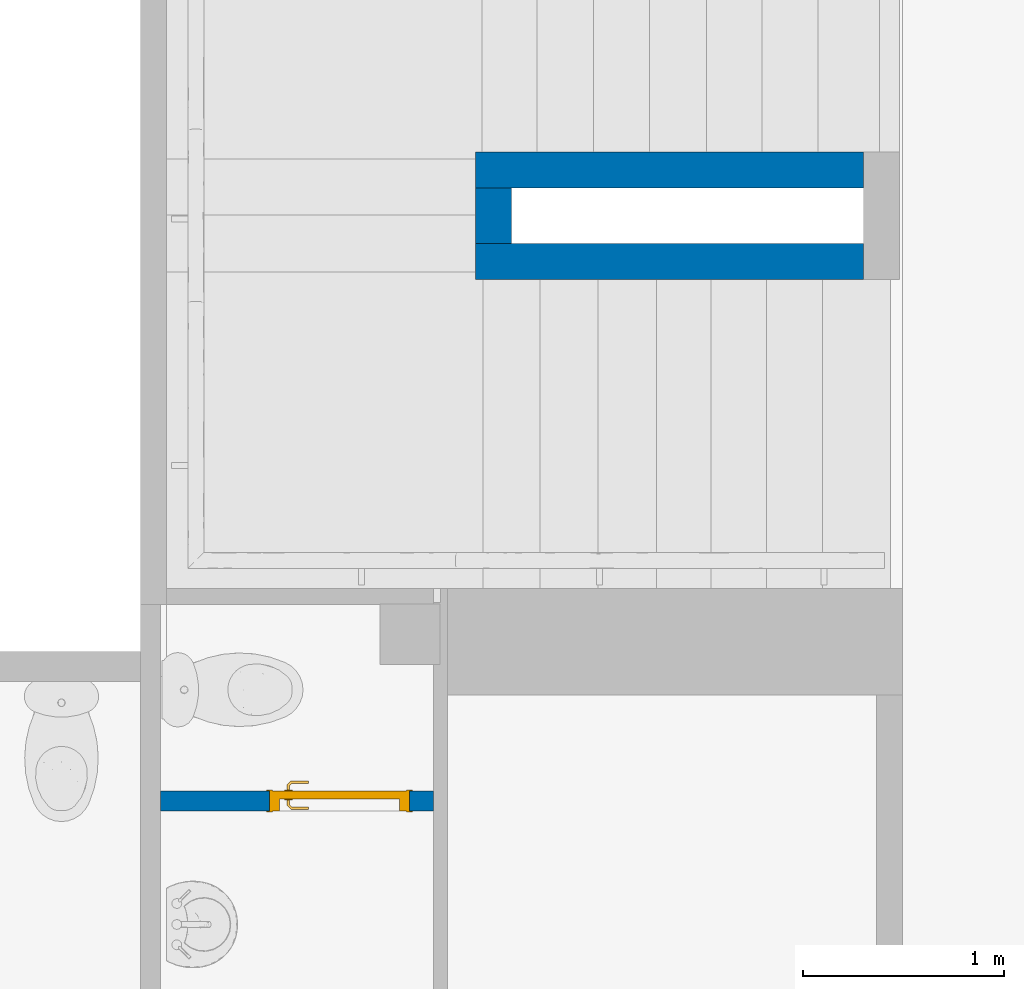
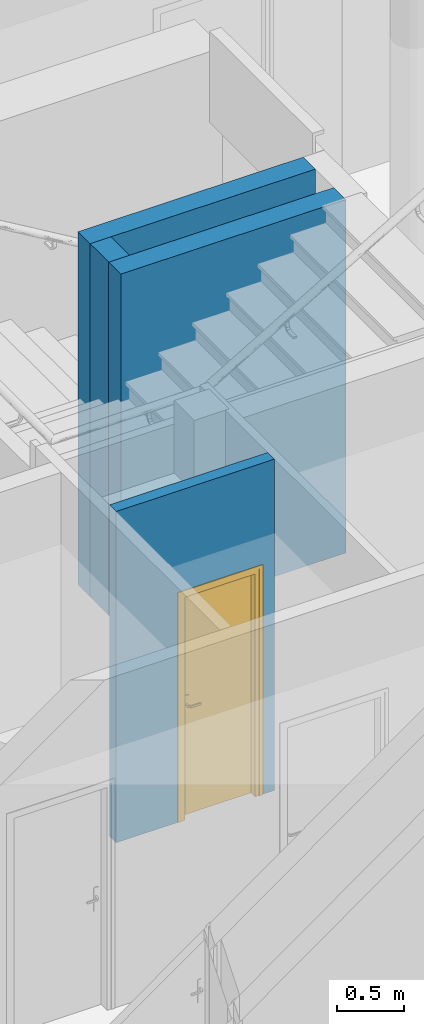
# One storey, part 48 of 97: 4 walls, 1 door, 1 opening.
"""IFC4 building model written with IfcOpenShell, lengths in metres."""

from ifc_helpers import new_model, entity, si_unit, converted_unit, derived_unit, direction, frame, origin, place, context, subcontext, project, spatial, indexed_curve, outline, extrude, polygons, source, transform, mapped, material, material_list, layer, layer_set, constituent, constituent_set, type_object, type_shapes, element, fill, save


model = new_model("IFC4")

# Units and contexts
model_context = context("Model", 3, precision=1e-05, world=origin(), true_north=direction((6.12303176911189e-17, 1.0)))
body_context = subcontext(model_context, "Body", "Model", "MODEL_VIEW")
ifc_project = project(units=[si_unit("LENGTHUNIT", "METRE"), si_unit("AREAUNIT", "SQUARE_METRE"), si_unit("VOLUMEUNIT", "CUBIC_METRE"), converted_unit("PLANEANGLEUNIT", "DEGREE", entity("IfcRatioMeasure", 0.0174532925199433), si_unit("PLANEANGLEUNIT", "RADIAN"), dimensions=[0, 0, 0, 0, 0, 0, 0]), si_unit("MASSUNIT", "GRAM", prefix="KILO"), derived_unit("MASSDENSITYUNIT", [(si_unit("MASSUNIT", "GRAM", prefix="KILO"), 1), (si_unit("LENGTHUNIT", "METRE"), -3)]), derived_unit("MOMENTOFINERTIAUNIT", [(si_unit("LENGTHUNIT", "METRE"), 4)]), si_unit("TIMEUNIT", "SECOND"), si_unit("FREQUENCYUNIT", "HERTZ"), si_unit("THERMODYNAMICTEMPERATUREUNIT", "DEGREE_CELSIUS"), derived_unit("THERMALTRANSMITTANCEUNIT", [(si_unit("MASSUNIT", "GRAM", prefix="KILO"), 1), (si_unit("THERMODYNAMICTEMPERATUREUNIT", "KELVIN"), -1), (si_unit("TIMEUNIT", "SECOND"), -3)]), derived_unit("VOLUMETRICFLOWRATEUNIT", [(si_unit("LENGTHUNIT", "METRE"), 3), (si_unit("TIMEUNIT", "SECOND"), -1)]), si_unit("ELECTRICCURRENTUNIT", "AMPERE"), si_unit("ELECTRICVOLTAGEUNIT", "VOLT"), si_unit("POWERUNIT", "WATT"), si_unit("FORCEUNIT", "NEWTON", prefix="KILO"), si_unit("ILLUMINANCEUNIT", "LUX"), si_unit("LUMINOUSFLUXUNIT", "LUMEN"), si_unit("LUMINOUSINTENSITYUNIT", "CANDELA"), derived_unit("USERDEFINED", [(si_unit("MASSUNIT", "GRAM", prefix="KILO"), -1), (si_unit("LENGTHUNIT", "METRE"), -2), (si_unit("TIMEUNIT", "SECOND"), 3), (si_unit("LUMINOUSFLUXUNIT", "LUMEN"), 1)]), derived_unit("LINEARVELOCITYUNIT", [(si_unit("LENGTHUNIT", "METRE"), 1), (si_unit("TIMEUNIT", "SECOND"), -1)]), si_unit("PRESSUREUNIT", "PASCAL"), derived_unit("USERDEFINED", [(si_unit("LENGTHUNIT", "METRE"), -2), (si_unit("MASSUNIT", "GRAM", prefix="KILO"), 1), (si_unit("TIMEUNIT", "SECOND"), -2)]), derived_unit("LINEARFORCEUNIT", [(si_unit("MASSUNIT", "GRAM", prefix="KILO"), 1), (si_unit("LENGTHUNIT", "METRE"), 1), (si_unit("TIMEUNIT", "SECOND"), -2), (si_unit("LENGTHUNIT", "METRE"), -1)]), derived_unit("PLANARFORCEUNIT", [(si_unit("MASSUNIT", "GRAM", prefix="KILO"), 1), (si_unit("LENGTHUNIT", "METRE"), 1), (si_unit("TIMEUNIT", "SECOND"), -2), (si_unit("LENGTHUNIT", "METRE"), -2)])], contexts=[model_context])

# Site, building, storey
site_placement = place(None, origin())
site = spatial("IfcSite", under=ifc_project, at=site_placement, Name="Default", CompositionType="ELEMENT")
building_placement = place(site_placement, origin())
building = spatial("IfcBuilding", under=site, at=building_placement, Name="HOTEL CONSULAIRE BOULOGNE SUR MER", CompositionType="ELEMENT")
storey_placement = place(building_placement, frame((0.0, 0.0, 3.62152697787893)))
storey = spatial("IfcBuildingStorey", under=building, at=storey_placement, Name="Niveau 1", CompositionType="ELEMENT", Elevation=3.62152697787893)

# Walls
ifc_material_1 = material(Name="Mur par défaut", Category="Divers")
ifc_layer_1 = layer(ifc_material_1, 0.18, Name="Mur par défaut", Category="Divers")
ifc_layer_set_1 = layer_set([ifc_layer_1], Name="Mur de base:Générique - Int.180")
wall_type_1 = type_object("IfcWallType", Name="Mur de base:Générique - Int.180", PredefinedType="NOTDEFINED", material=ifc_layer_set_1)
wall_1_placement = place(storey_placement, frame((3.2974549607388, -17.4788875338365, -0.200000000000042)))
element("IfcWall", 1, at=wall_1_placement, inside=storey, type_object=wall_type_1, material=ifc_layer_set_1, Name="Mur de base:Générique - Int.180", ObjectType="Mur de base:Générique - Int.180", PredefinedType="NOTDEFINED", context=body_context, shape_type="SweptSolid", body=[
    extrude(outline(indexed_curve([(1.93452533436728, 0.0899999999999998), (2.03362004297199e-16, 0.089999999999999), (-2.03362004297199e-16, -0.089999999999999), (1.93452533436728, -0.0899999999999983), (1.93452533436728, 0.0899999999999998)], self_intersect=False)), origin(), (0.0, 0.0, 1.0), 3.21021454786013),
])
wall_2_placement = place(storey_placement, frame((3.2974549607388, -17.9348875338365, -0.200000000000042)))
element("IfcWall", 2, at=wall_2_placement, inside=storey, type_object=wall_type_1, material=ifc_layer_set_1, Name="Mur de base:Générique - Int.180", ObjectType="Mur de base:Générique - Int.180", PredefinedType="NOTDEFINED", context=body_context, shape_type="SweptSolid", body=[
    extrude(outline(indexed_curve([(1.93452533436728, 0.0899999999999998), (2.02950784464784e-16, 0.089999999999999), (-2.02950784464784e-16, -0.089999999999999), (1.93452533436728, -0.0899999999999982), (1.93452533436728, 0.0899999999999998)], self_intersect=False)), origin(), (0.0, 0.0, 1.0), 3.21021454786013),
])
wall_3_placement = place(storey_placement, frame((3.3874549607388, -17.5688875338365, -0.200000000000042), z_axis=(0.0, 0.0, 1.0), x_axis=(0.0, -1.0, 0.0)))
element("IfcWall", 3, at=wall_3_placement, inside=storey, type_object=wall_type_1, material=ifc_layer_set_1, Name="Mur de base:Générique - Int.180", ObjectType="Mur de base:Générique - Int.180", PredefinedType="NOTDEFINED", context=body_context, shape_type="SweptSolid", body=[
    extrude(outline(indexed_curve([(0.276, 0.0900000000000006), (-1.49754604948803e-16, 0.0900000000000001), (1.49754604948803e-16, -0.0900000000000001), (0.276, -0.0899999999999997), (0.276, 0.0900000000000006)], self_intersect=False)), origin(), (0.0, 0.0, 1.0), 3.21021454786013),
])

# Wall, opening, door
ifc_layer_2 = layer(ifc_material_1, 0.1, Name="Mur par défaut", Category="Divers")
ifc_layer_set_2 = layer_set([ifc_layer_2], Name="Mur de base:Générique - Int. 100 mm")
wall_type_2 = type_object("IfcWallType", Name="Mur de base:Générique - Int. 100 mm", PredefinedType="NOTDEFINED", material=ifc_layer_set_2)
wall_4_placement = place(storey_placement, frame((3.08781360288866, -20.6255920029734, 0.0), z_axis=(0.0, 0.0, 1.0), x_axis=(-1.0, 0.0, 0.0)))
wall_4 = element("IfcWall", 4, at=wall_4_placement, inside=storey, type_object=wall_type_2, material=ifc_layer_set_2, Name="Mur de base:Générique - Int. 100 mm", ObjectType="Mur de base:Générique - Int. 100 mm", PredefinedType="NOTDEFINED", context=body_context, shape_type="Tessellation", body=[
    polygons([(1.36034228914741, -0.0499999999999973, 0.0), (0.817999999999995, -0.0500000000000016, 0.0), (0.817999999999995, 0.0500000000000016, 0.0), (1.36034228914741, 0.0500000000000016, 0.0), (1.36034228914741, -0.0499999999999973, 3.01021454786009), (3.54735710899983e-16, -0.0499999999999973, 3.01021454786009), (3.54735710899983e-16, -0.0499999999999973, 0.0), (0.118, -0.0499999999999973, 0.0), (0.118, -0.0499999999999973, 2.07500000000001), (0.817999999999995, -0.0500000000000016, 2.07500000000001), (5.87383871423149e-16, 0.0500000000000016, 3.01021454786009), (1.36034228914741, 0.0500000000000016, 3.01021454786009), (0.817999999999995, 0.0499999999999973, 2.07500000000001), (0.118, 0.0500000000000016, 2.07500000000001), (0.118, 0.0500000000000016, 0.0), (5.87383871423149e-16, 0.0500000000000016, 0.0)], [[[2, 3, 4, 1]], [[10, 9, 14, 13]], [[8, 7, 16, 15]], [[7, 8, 9, 10, 2, 1, 5, 6]], [[4, 3, 13, 14, 15, 16, 11, 12]], [[6, 5, 12, 11]], [[1, 4, 12, 5]], [[9, 8, 15, 14]], [[16, 7, 6, 11]], [[2, 10, 13, 3]]], closed=True),
])
opening_placement = place(wall_4_placement, frame((0.817999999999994, 0.0499999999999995, 0.0)))
opening = element("IfcOpeningElement", 5, at=opening_placement, cuts=wall_4, Name="Int. Simple:PP (0.63m x 2.04m):1", ObjectType="Opening", PredefinedType="OPENING", context=body_context, shape_type="SweptSolid", body=[
    extrude(outline(indexed_curve([(0.0, 0.699999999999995), (0.0, 0.0), (2.07500000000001, 0.0), (2.07500000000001, 0.699999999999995), (0.0, 0.699999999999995)], self_intersect=False)), frame((0.0, 0.0, 0.0), z_axis=(0.0, -1.0, 0.0), x_axis=(0.0, 0.0, 1.0)), (0.0, 0.0, 1.0), 0.1),
])
ifc_material_2 = material(Name="Finition Peinture - Blanc satiné", Category="Peinture")
ifc_constituent_1 = constituent(ifc_material_2, Name="Finition Peinture - Blanc satiné", Category="Matériaux")
ifc_material_3 = material(Name="Bois - Panneau de porte", Category="Bois")
ifc_constituent_2 = constituent(ifc_material_3, Name="Bois - Panneau de porte", Category="Matériaux")
ifc_material_4 = material(Name="Bois - Cadre de porte", Category="Bois")
ifc_constituent_3 = constituent(ifc_material_4, Name="Bois - Cadre de porte", Category="Matériaux")
ifc_constituent_set = constituent_set(constituents=[ifc_constituent_1, ifc_constituent_2, ifc_constituent_3], Name="MaterialConstituentSet")
ifc_material_list = material_list([ifc_material_4, ifc_material_4, ifc_material_2, ifc_material_3])
door_type = type_object("IfcDoorType", Name="Int. Simple:PP (0.63m x 2.04m)", OperationType="NOTDEFINED", PredefinedType="DOOR", material=ifc_material_list)
shared_shape = source(origin(), body_context, "Body", "Tessellation", [
    polygons([(0.695000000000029, -0.00500000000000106, 0.870000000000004), (0.695000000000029, -0.00500000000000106, 1.08), (0.68535276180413, -0.00500000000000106, 1.08399601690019), (0.675000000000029, -0.00500000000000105, 1.08535898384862), (0.664647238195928, -0.00500000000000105, 1.08399601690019), (0.65500000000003, -0.00500000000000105, 1.08), (0.655000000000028, -0.00500000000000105, 0.870000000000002), (0.664647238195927, -0.00500000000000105, 0.866003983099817), (0.675000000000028, -0.00500000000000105, 0.86464101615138), (0.685352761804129, -0.00500000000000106, 0.866003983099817), (0.695000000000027, -1.06594733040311e-15, 0.870000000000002), (0.685352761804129, -1.06594733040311e-15, 0.866003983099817), (0.675000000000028, -1.05748743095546e-15, 0.86464101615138), (0.664647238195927, -1.05748743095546e-15, 0.866003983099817), (0.655000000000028, -1.04902753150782e-15, 0.870000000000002), (0.655000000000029, -1.04902753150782e-15, 1.08), (0.664647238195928, -1.05748743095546e-15, 1.08399601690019), (0.675000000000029, -1.05748743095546e-15, 1.08535898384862), (0.68535276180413, -1.06594733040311e-15, 1.08399601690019), (0.695000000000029, -1.06594733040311e-15, 1.08)], [[[1, 2, 3, 4, 5, 6, 7, 8, 9, 10]], [[20, 11, 12, 13, 14, 15, 16, 17, 18, 19]], [[10, 12, 11, 1]], [[9, 13, 12, 10]], [[8, 14, 13, 9]], [[8, 7, 15, 14]], [[15, 7, 6, 16]], [[5, 17, 16, 6]], [[4, 18, 17, 5]], [[3, 19, 18, 4]], [[3, 2, 20, 19]], [[11, 20, 2, 1]]], closed=True),
    polygons([(0.65500000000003, 0.0399999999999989, 1.08), (0.655000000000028, 0.0399999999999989, 0.870000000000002), (0.664647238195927, 0.0399999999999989, 0.866003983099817), (0.675000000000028, 0.0399999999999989, 0.86464101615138), (0.685352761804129, 0.0399999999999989, 0.866003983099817), (0.695000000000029, 0.0399999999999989, 0.870000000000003), (0.695000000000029, 0.0399999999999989, 1.08), (0.68535276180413, 0.0399999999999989, 1.08399601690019), (0.675000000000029, 0.0399999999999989, 1.08535898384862), (0.664647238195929, 0.0399999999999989, 1.08399601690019), (0.65500000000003, 0.0449999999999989, 1.08), (0.664647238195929, 0.0449999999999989, 1.08399601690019), (0.675000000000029, 0.0449999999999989, 1.08535898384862), (0.68535276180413, 0.0449999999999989, 1.08399601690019), (0.695000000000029, 0.0449999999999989, 1.08), (0.695000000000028, 0.0449999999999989, 0.870000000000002), (0.685352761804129, 0.0449999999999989, 0.866003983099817), (0.675000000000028, 0.0449999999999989, 0.86464101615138), (0.664647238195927, 0.0449999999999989, 0.866003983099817), (0.655000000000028, 0.0449999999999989, 0.870000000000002)], [[[6, 7, 8, 9, 10, 1, 2, 3, 4, 5]], [[13, 14, 15, 16, 17, 18, 19, 20, 11, 12]], [[10, 12, 11, 1]], [[9, 13, 12, 10]], [[8, 14, 13, 9]], [[8, 7, 15, 14]], [[16, 15, 7, 6]], [[5, 17, 16, 6]], [[4, 18, 17, 5]], [[3, 19, 18, 4]], [[3, 2, 20, 19]], [[20, 2, 1, 11]]], closed=True),
    polygons([(0.681000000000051, -0.00500000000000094, 1.00699999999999), (0.68100000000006, -0.00500000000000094, 0.992999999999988), (0.677025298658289, -0.00500000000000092, 0.99221955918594), (0.67297470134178, -0.0050000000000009, 0.992219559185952), (0.669000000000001, -0.00500000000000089, 0.993000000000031), (0.669000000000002, -0.00500000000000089, 1.007), (0.672974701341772, -0.0050000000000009, 1.00778044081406), (0.677025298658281, -0.00500000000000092, 1.00778044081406), (0.669000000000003, -0.0276803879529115, 1.007), (0.672974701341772, -0.0293267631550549, 1.00778044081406), (0.677025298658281, -0.0310045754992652, 1.00778044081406), (0.681000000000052, -0.0326509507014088, 1.007), (0.669000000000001, -0.0276803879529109, 0.993000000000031), (0.68100000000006, -0.0326509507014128, 0.992999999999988), (0.677025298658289, -0.0310045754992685, 0.99221955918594), (0.67297470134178, -0.0293267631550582, 0.992219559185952), (0.657652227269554, -0.0390281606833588, 1.007), (0.659298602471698, -0.0430028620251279, 1.00778044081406), (0.660976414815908, -0.0470534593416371, 1.00778044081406), (0.662622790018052, -0.051028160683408, 1.007), (0.657652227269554, -0.0390281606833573, 0.993000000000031), (0.662622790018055, -0.0510281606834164, 0.992999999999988), (0.660976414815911, -0.0470534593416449, 0.99221955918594), (0.659298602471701, -0.0430028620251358, 0.992219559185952), (0.574981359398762, -0.0510281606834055, 1.007), (0.574981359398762, -0.0470534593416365, 1.00778044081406), (0.574981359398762, -0.0430028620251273, 1.00778044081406), (0.574981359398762, -0.0390281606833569, 1.00699999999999), (0.574981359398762, -0.0390281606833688, 0.993000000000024), (0.574981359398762, -0.0430028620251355, 0.992219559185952), (0.574981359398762, -0.0470534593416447, 0.99221955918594), (0.574981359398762, -0.0510281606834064, 0.992999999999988), (0.622692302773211, -0.051028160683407, 1.007), (0.617139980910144, -0.045028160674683, 1.0078786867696), (0.616316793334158, -0.039028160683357, 1.007), (0.622692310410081, -0.0510281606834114, 0.992999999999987), (0.617139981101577, -0.0450281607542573, 0.992121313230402), (0.61631679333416, -0.0390281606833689, 0.993000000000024)], [[[7, 8, 1, 2, 3, 4, 5, 6]], [[17, 21, 38, 29, 28, 35]], [[1, 8, 11, 12]], [[8, 7, 10, 18, 19, 11]], [[7, 6, 9, 10]], [[13, 9, 6, 5]], [[25, 26, 27, 28, 29, 30, 31, 32]], [[4, 16, 13, 5]], [[4, 3, 15, 23, 24, 16]], [[2, 14, 15, 3]], [[12, 14, 2, 1]], [[12, 11, 19, 20]], [[10, 9, 17, 18]], [[21, 17, 9, 13]], [[13, 16, 24, 21]], [[15, 14, 22, 23]], [[20, 22, 14, 12]], [[34, 26, 33]], [[33, 26, 25]], [[33, 20, 19]], [[18, 35, 34]], [[35, 18, 17]], [[28, 27, 35]], [[34, 27, 26]], [[34, 35, 27]], [[34, 33, 19]], [[18, 34, 19]], [[37, 30, 38]], [[31, 37, 36]], [[24, 38, 21]], [[30, 29, 38]], [[31, 36, 32]], [[36, 23, 22]], [[37, 23, 36]], [[37, 24, 23]], [[37, 38, 24]], [[30, 37, 31]], [[22, 20, 33, 25, 32, 36]]], closed=True),
    polygons([(0.66900000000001, 0.0449999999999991, 0.993000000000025), (0.672974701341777, 0.0449999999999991, 0.992219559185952), (0.677025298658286, 0.0449999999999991, 0.99221955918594), (0.681000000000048, 0.044999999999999, 0.992999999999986), (0.681000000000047, 0.044999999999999, 1.007), (0.677025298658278, 0.0449999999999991, 1.00778044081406), (0.672974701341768, 0.0449999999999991, 1.00778044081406), (0.668999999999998, 0.0449999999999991, 1.007), (0.668999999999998, 0.067485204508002, 1.007), (0.668999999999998, 0.0674852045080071, 0.993000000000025), (0.681000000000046, 0.0724557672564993, 1.007), (0.677025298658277, 0.070809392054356, 1.00778044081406), (0.672974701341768, 0.0691315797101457, 1.00778044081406), (0.681000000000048, 0.0724557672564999, 0.992999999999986), (0.672974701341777, 0.0691315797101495, 0.992219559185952), (0.677025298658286, 0.0708093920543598, 0.99221955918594), (0.65751471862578, 0.0789704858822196, 1.007), (0.657514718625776, 0.0789704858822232, 0.993000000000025), (0.662485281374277, 0.0909704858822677, 1.007), (0.660838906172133, 0.0869957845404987, 1.00778044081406), (0.659161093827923, 0.0829451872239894, 1.00778044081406), (0.662485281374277, 0.0909704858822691, 0.992999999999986), (0.659161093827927, 0.0829451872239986, 0.992219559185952), (0.660838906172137, 0.0869957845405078, 0.99221955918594), (0.574954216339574, 0.0789704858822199, 0.993000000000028), (0.574954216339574, 0.0789704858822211, 1.007), (0.574954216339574, 0.0829451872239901, 1.00778044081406), (0.574954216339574, 0.0869957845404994, 1.00778044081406), (0.574954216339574, 0.0909704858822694, 1.007), (0.574954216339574, 0.0909704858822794, 0.992999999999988), (0.574954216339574, 0.086995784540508, 0.99221955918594), (0.574954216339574, 0.0829451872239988, 0.992219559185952), (0.62255479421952, 0.0909704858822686, 1.007), (0.617057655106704, 0.0849704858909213, 1.0078786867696), (0.616234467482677, 0.0789704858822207, 1.007), (0.622554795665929, 0.0909704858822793, 0.992999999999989), (0.617057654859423, 0.0849704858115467, 0.992121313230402), (0.616234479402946, 0.0789704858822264, 0.993000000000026)], [[[2, 3, 4, 5, 6, 7, 8, 1]], [[18, 17, 35, 26, 25, 38]], [[9, 10, 1, 8]], [[27, 28, 29, 30, 31, 32, 25, 26]], [[7, 13, 9, 8]], [[7, 6, 12, 20, 21, 13]], [[5, 11, 12, 6]], [[11, 5, 4, 14]], [[4, 3, 16, 14]], [[3, 2, 15, 23, 24, 16]], [[2, 1, 10, 15]], [[17, 18, 10, 9]], [[9, 13, 21, 17]], [[11, 19, 20, 12]], [[22, 19, 11, 14]], [[14, 16, 24, 22]], [[15, 10, 18, 23]], [[34, 27, 35]], [[28, 34, 33]], [[21, 35, 17]], [[27, 26, 35]], [[28, 33, 29]], [[33, 20, 19]], [[34, 20, 33]], [[34, 21, 20]], [[34, 35, 21]], [[27, 34, 28]], [[19, 22, 36, 30, 29, 33]], [[37, 31, 36]], [[36, 31, 30]], [[36, 22, 24]], [[23, 38, 37]], [[38, 23, 18]], [[25, 32, 38]], [[37, 32, 31]], [[37, 38, 32]], [[37, 36, 24]], [[23, 37, 24]]], closed=True),
    polygons([(0.735000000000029, 0.04, 2.04), (0.735000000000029, 0.04, 0.0), (0.105000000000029, 0.04, 0.0), (0.105000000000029, 0.04, 2.04), (0.735000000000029, 3.38395977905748e-17, 2.04), (0.105000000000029, 3.38395977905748e-17, 2.04), (0.105000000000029, 3.38395977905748e-17, 0.0), (0.735000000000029, 3.38395977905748e-17, 0.0)], [[[4, 1, 2, 3]], [[5, 6, 7, 8]], [[5, 1, 4, 6]], [[6, 4, 3, 7]], [[7, 3, 2, 8]], [[8, 2, 1, 5]]], closed=True),
    polygons([(0.770000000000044, 0.0, 0.0), (0.735000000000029, 0.0, 0.0), (0.735000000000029, 0.040000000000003, 0.0), (0.720000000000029, 0.040000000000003, 0.0), (0.720000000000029, 0.100000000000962, 0.0), (0.770000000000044, 0.100000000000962, 0.0), (0.770000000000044, 0.100000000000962, 2.07500000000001), (0.770000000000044, 0.0, 2.07500000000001), (0.720000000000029, 0.100000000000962, 2.025), (0.120000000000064, 0.100000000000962, 2.025), (0.120000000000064, 0.100000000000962, -1.79828591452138e-24), (0.0700000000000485, 0.100000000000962, 1.16645647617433e-24), (0.0700000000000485, 0.100000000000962, 2.07500000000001), (0.720000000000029, 0.040000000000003, 2.025), (0.735000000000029, 0.040000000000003, 2.04), (0.105000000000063, 0.040000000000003, 2.04), (0.105000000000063, 0.040000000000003, 1.46419166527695e-24), (0.120000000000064, 0.040000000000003, 1.49408317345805e-25), (0.120000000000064, 0.040000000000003, 2.025), (0.735000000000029, 0.0, 2.04), (0.0700000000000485, 0.0, 2.07500000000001), (0.0700000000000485, 0.0, 4.03399441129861e-24), (0.105000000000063, 0.0, 0.0), (0.105000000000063, 0.0, 2.04)], [[[5, 6, 1, 2, 3, 4]], [[17, 23, 22, 12, 11, 18]], [[19, 10, 9, 14]], [[16, 15, 20, 24]], [[7, 8, 1, 6]], [[11, 10, 19, 18]], [[17, 16, 24, 23]], [[9, 10, 11, 12, 13, 7, 6, 5]], [[9, 5, 4, 14]], [[15, 3, 2, 20]], [[12, 22, 21, 13]], [[19, 14, 4, 3, 15, 16, 17, 18]], [[24, 20, 2, 1, 8, 21, 22, 23]], [[21, 8, 7, 13]]], closed=True),
    polygons([(0.755000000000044, 0.100000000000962, 0.0), (0.755000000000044, 0.105000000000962, 0.0), (0.785000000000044, 0.105000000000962, 0.0), (0.785000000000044, 0.100000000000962, 0.0), (0.785000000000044, 0.100000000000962, 2.09000000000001), (0.0550000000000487, 0.100000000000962, 2.09000000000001), (0.0550000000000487, 0.100000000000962, 1.09662010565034e-24), (0.0850000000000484, 0.100000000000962, -5.40476896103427e-24), (0.0850000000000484, 0.100000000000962, 2.06000000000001), (0.755000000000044, 0.100000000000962, 2.06000000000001), (0.785000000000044, 0.105000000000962, 2.09000000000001), (0.755000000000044, 0.105000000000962, 2.06000000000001), (0.0850000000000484, 0.105000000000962, 2.06000000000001), (0.0850000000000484, 0.105000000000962, 3.01102000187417e-24), (0.0550000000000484, 0.105000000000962, 9.94022571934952e-24), (0.0550000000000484, 0.105000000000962, 2.09000000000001)], [[[2, 3, 4, 1]], [[7, 15, 14, 8]], [[13, 12, 10, 9]], [[9, 10, 1, 4, 5, 6, 7, 8]], [[11, 5, 4, 3]], [[8, 14, 13, 9]], [[12, 13, 14, 15, 16, 11, 3, 2]], [[12, 2, 1, 10]], [[15, 7, 6, 16]], [[16, 6, 5, 11]]], closed=True),
    polygons([(0.0850000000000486, -0.005, -5.41433564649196e-16), (0.0550000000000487, -0.005, -5.41433564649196e-16), (0.0550000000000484, 0.0, -5.41433564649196e-16), (0.0850000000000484, 0.0, -5.41433564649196e-16), (0.755000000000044, -0.005, 0.0), (0.755000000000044, 0.0, 0.0), (0.785000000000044, 0.0, 0.0), (0.785000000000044, -0.005, 0.0), (0.785000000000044, -0.005, 2.09000000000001), (0.0550000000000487, -0.005, 2.09000000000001), (0.0850000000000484, -0.005, 2.06000000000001), (0.755000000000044, -0.005, 2.06000000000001), (0.785000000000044, 0.0, 2.09000000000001), (0.755000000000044, 0.0, 2.06000000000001), (0.0850000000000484, 0.0, 2.06000000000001), (0.0550000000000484, 0.0, 2.09000000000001)], [[[2, 3, 4, 1]], [[6, 7, 8, 5]], [[15, 14, 12, 11]], [[11, 12, 5, 8, 9, 10, 2, 1]], [[13, 9, 8, 7]], [[1, 4, 15, 11]], [[14, 15, 4, 3, 16, 13, 7, 6]], [[14, 6, 5, 12]], [[3, 2, 10, 16]], [[16, 10, 9, 13]]], closed=True),
])
type_shapes(door_type, [shared_shape])
door_placement = place(opening_placement, frame((-0.770000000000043, -0.100000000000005, 0.0)))
door = element("IfcDoor", 6, at=door_placement, inside=storey, type_object=door_type, material=ifc_constituent_set, Name="Int. Simple:PP (0.63m x 2.04m)", ObjectType="Int. Simple:PP (0.63m x 2.04m)", OperationType="NOTDEFINED", OverallHeight=2.07500000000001, OverallWidth=0.699999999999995, PredefinedType="DOOR", context=body_context, shape_type="MappedRepresentation", body=[
    mapped(shared_shape, transform((0.0, 0.0, 0.0), scale=1.0)),
])
fill(opening, door)

save(model, "model.ifc")
